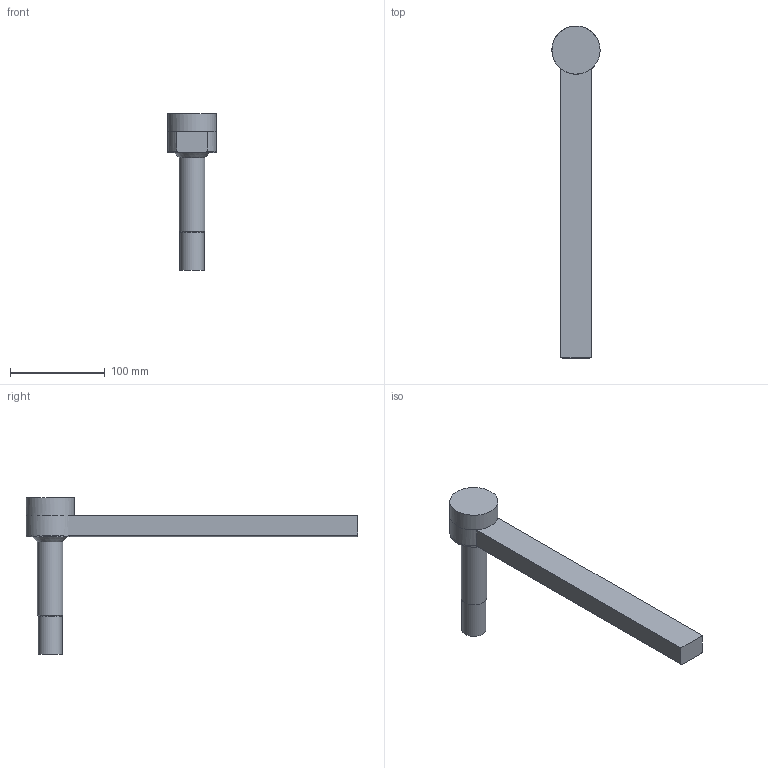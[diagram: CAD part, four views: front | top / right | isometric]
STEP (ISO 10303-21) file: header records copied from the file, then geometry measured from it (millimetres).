
FILE_DESCRIPTION(/* description */ (''),/* implementation_level */ '2;1');
FILE_NAME(/* name */ 'B0891TRUPas.stp',/* time_stamp */ '2019-10-03T11:15:54-04:00',/* author */ (''),/* organization */ (''),/* preprocessor_version */ 'ST-DEVELOPER v16',/* originating_system */ 'SIEMENS PLM Software NX 11.0',/* authorisation */ '');
FILE_SCHEMA (('AUTOMOTIVE_DESIGN { 1 0 10303 214 3 1 1 1 }'));
Length unit declared in the file: inch
Products named in the file (3): B0891TRUPd; B08XX_SubSolid; B0891TRUPas
Assembly tree (2 placements, depth 2):
  B0891TRUPas
    B08XX_SubSolid
    B0891TRUPd
Bounding box: 50.91 x 350.87 x 165.89 mm (x, y, z)
Volume: 458910 mm3; surface area: 75444.1 mm2
Topology: 2 solids, 3 shells, 34 faces, 72 edges, 45 vertices
Faces by surface type: plane 13, cylinder 10, cone 6, torus 3, sphere 1, revolution 1
Full cylindrical faces by diameter (mm): 8.731 x2, 25.4 x2, 26.987 x1, 50.927 x1
Entity records: 874 total; most frequent: CARTESIAN_POINT 167, DIRECTION 142, ORIENTED_EDGE 96, AXIS2_PLACEMENT_3D 62, EDGE_LOOP 54, EDGE_CURVE 48, FACE_BOUND 45, VERTEX_POINT 40
